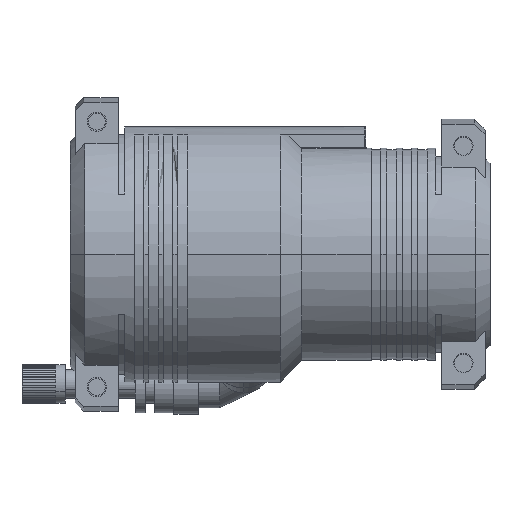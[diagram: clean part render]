
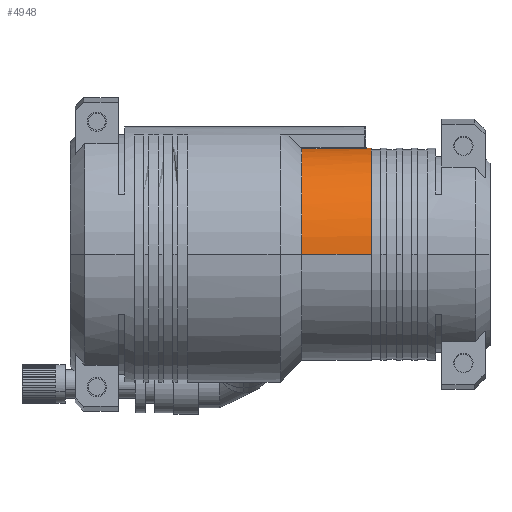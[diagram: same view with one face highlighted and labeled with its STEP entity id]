
A CAD part, front view. The second image highlights one B-rep face of the part: STEP entity #4948.
In plain terms, the highlighted cylindrical face has radius 22 mm (diameter 44 mm), a partial arc.
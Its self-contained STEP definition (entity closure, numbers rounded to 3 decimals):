
#4896 = VERTEX_POINT ( 'NONE', #12330 ) ;
#4913 = EDGE_LOOP ( 'NONE', ( #4950, #4949, #4929, #4936, #4935, #4943, #4940 ) ) ;
#4925 = EDGE_CURVE ( 'NONE', #4896, #21762, #12507, .T. ) ;
#4926 = VERTEX_POINT ( 'NONE', #12509 ) ;
#4927 = VERTEX_POINT ( 'NONE', #12508 ) ;
#4928 = VERTEX_POINT ( 'NONE', #12501 ) ;
#4929 = ORIENTED_EDGE ( 'NONE', *, *, #4931, .T. ) ;
#4930 = EDGE_CURVE ( 'NONE', #4932, #4927, #12491, .T. ) ;
#4931 = EDGE_CURVE ( 'NONE', #21762, #4927, #12494, .T. ) ;
#4932 = VERTEX_POINT ( 'NONE', #12572 ) ;
#4935 = ORIENTED_EDGE ( 'NONE', *, *, #4937, .T. ) ;
#4936 = ORIENTED_EDGE ( 'NONE', *, *, #4930, .F. ) ;
#4937 = EDGE_CURVE ( 'NONE', #4932, #4928, #12493, .T. ) ;
#4940 = ORIENTED_EDGE ( 'NONE', *, *, #4993, .T. ) ;
#4941 = EDGE_CURVE ( 'NONE', #4926, #4928, #12559, .T. ) ;
#4943 = ORIENTED_EDGE ( 'NONE', *, *, #4941, .F. ) ;
#4946 = VERTEX_POINT ( 'NONE', #12564 ) ;
#4948 = ADVANCED_FACE ( 'NONE', ( #12498 ), #12500, .T. ) ;
#4949 = ORIENTED_EDGE ( 'NONE', *, *, #4925, .T. ) ;
#4950 = ORIENTED_EDGE ( 'NONE', *, *, #4951, .F. ) ;
#4951 = EDGE_CURVE ( 'NONE', #4896, #4946, #12626, .T. ) ;
#4993 = EDGE_CURVE ( 'NONE', #4926, #4946, #12711, .T. ) ;
#12330 = CARTESIAN_POINT ( 'NONE',  ( 22.37, 0., 22. ) ) ;
#12431 = AXIS2_PLACEMENT_3D ( 'NONE', #12472, #12574, #12573 ) ;
#12472 = CARTESIAN_POINT ( 'NONE',  ( 21.5, 0., 0. ) ) ;
#12479 = CARTESIAN_POINT ( 'NONE',  ( 21.5, -1.73, 21.932 ) ) ;
#12480 = CARTESIAN_POINT ( 'NONE',  ( 21.5, -1.862, 21.921 ) ) ;
#12481 = CARTESIAN_POINT ( 'NONE',  ( 21.445, -1.989, 21.91 ) ) ;
#12483 = CARTESIAN_POINT ( 'NONE',  ( 21.261, -2.171, 21.893 ) ) ;
#12485 = CARTESIAN_POINT ( 'NONE',  ( 21.132, -2.225, 21.887 ) ) ;
#12487 = CARTESIAN_POINT ( 'NONE',  ( 21., -2.225, 21.887 ) ) ;
#12491 = B_SPLINE_CURVE_WITH_KNOTS ( 'NONE', 3,
 ( #12487, #12485, #12483, #12481, #12480, #12479 ),
 .UNSPECIFIED., .F., .F.,
 ( 4, 2, 4 ),
 ( 0., 0., 0.001 ),
 .UNSPECIFIED. ) ;
#12493 = LINE ( 'NONE', #12496, #12567 ) ;
#12494 = CIRCLE ( 'NONE', #12431, 22. ) ;
#12496 = CARTESIAN_POINT ( 'NONE',  ( -92.286, -2.225, 21.887 ) ) ;
#12498 = FACE_OUTER_BOUND ( 'NONE', #4913, .T. ) ;
#12500 = CYLINDRICAL_SURFACE ( 'NONE', #12556, 22. ) ;
#12501 = CARTESIAN_POINT ( 'NONE',  ( 8., -2.225, 21.887 ) ) ;
#12502 = DIRECTION ( 'NONE',  ( -1., 0., 0. ) ) ;
#12504 = VECTOR ( 'NONE', #12502, 1000. ) ;
#12505 = CARTESIAN_POINT ( 'NONE',  ( -92.286, 0., 22. ) ) ;
#12507 = LINE ( 'NONE', #12505, #12504 ) ;
#12508 = CARTESIAN_POINT ( 'NONE',  ( 21.5, -1.73, 21.932 ) ) ;
#12509 = CARTESIAN_POINT ( 'NONE',  ( 8., -22., 0. ) ) ;
#12528 = CARTESIAN_POINT ( 'NONE',  ( 22.37, 0., 0. ) ) ;
#12531 = DIRECTION ( 'NONE',  ( 0., 0., 1. ) ) ;
#12540 = CARTESIAN_POINT ( 'NONE',  ( -92.286, 0., 0. ) ) ;
#12547 = AXIS2_PLACEMENT_3D ( 'NONE', #12528, #12625, #12623 ) ;
#12549 = DIRECTION ( 'NONE',  ( 0., 0., 1. ) ) ;
#12550 = DIRECTION ( 'NONE',  ( -1., 0., 0. ) ) ;
#12552 = CARTESIAN_POINT ( 'NONE',  ( 8., 0., 0. ) ) ;
#12553 = AXIS2_PLACEMENT_3D ( 'NONE', #12552, #12550, #12549 ) ;
#12556 = AXIS2_PLACEMENT_3D ( 'NONE', #12540, #12560, #12531 ) ;
#12559 = CIRCLE ( 'NONE', #12553, 22. ) ;
#12560 = DIRECTION ( 'NONE',  ( -1., 0., 0. ) ) ;
#12564 = CARTESIAN_POINT ( 'NONE',  ( 22.37, -22., 0. ) ) ;
#12566 = DIRECTION ( 'NONE',  ( -1., 0., 0. ) ) ;
#12567 = VECTOR ( 'NONE', #12566, 1000. ) ;
#12572 = CARTESIAN_POINT ( 'NONE',  ( 21., -2.225, 21.887 ) ) ;
#12573 = DIRECTION ( 'NONE',  ( 0., 0., 1. ) ) ;
#12574 = DIRECTION ( 'NONE',  ( 1., 0., 0. ) ) ;
#12623 = DIRECTION ( 'NONE',  ( 0., 0., -1. ) ) ;
#12625 = DIRECTION ( 'NONE',  ( 1., 0., 0. ) ) ;
#12626 = CIRCLE ( 'NONE', #12547, 22. ) ;
#12679 = DIRECTION ( 'NONE',  ( 1., 0., 0. ) ) ;
#12681 = VECTOR ( 'NONE', #12679, 1000. ) ;
#12688 = CARTESIAN_POINT ( 'NONE',  ( -92.286, -22., 0. ) ) ;
#12711 = LINE ( 'NONE', #12688, #12681 ) ;
#18116 = CARTESIAN_POINT ( 'NONE',  ( 21.5, 0., 22. ) ) ;
#21762 = VERTEX_POINT ( 'NONE', #18116 ) ;
